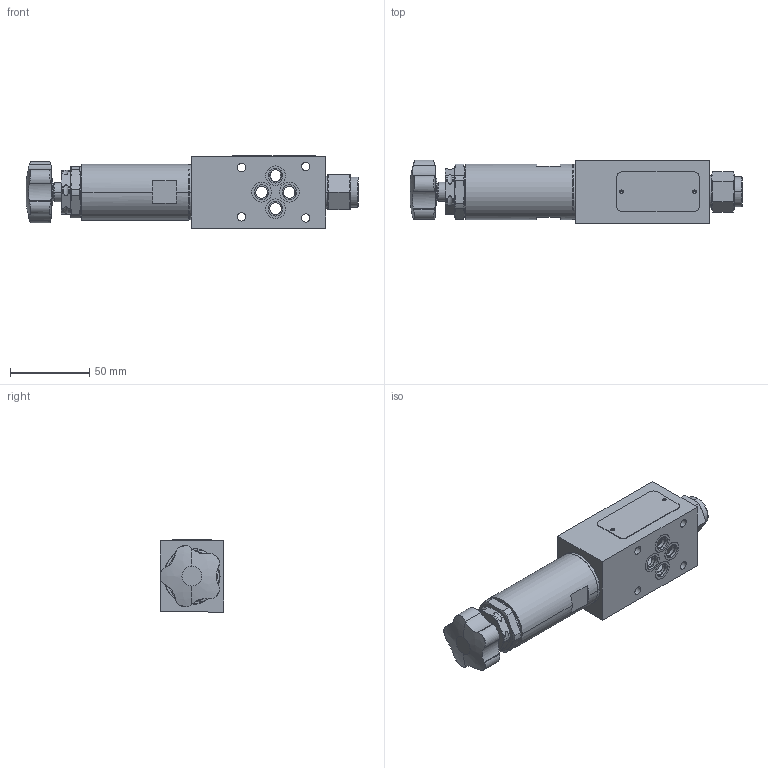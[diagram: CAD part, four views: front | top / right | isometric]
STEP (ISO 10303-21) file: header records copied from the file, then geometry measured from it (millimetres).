
FILE_DESCRIPTION((''),'2;1');
FILE_NAME('VRP2-06-PR_ASM','2022-01-18T',('j.slovenska'),(''),'PRO/ENGINEER BY PARAMETRIC TECHNOLOGY CORPORATION, 2015440','PRO/ENGINEER BY PARAMETRIC TECHNOLOGY CORPORATION, 2015440','');
FILE_SCHEMA(('AUTOMOTIVE_DESIGN { 1 0 10303 214 1 1 1 1 }'));
Length unit declared in the file: millimetre
Products named in the file (33): 27561601_AF0; 517_0120_AF0; 19906100_AF0; 19906200; 19906400; 19906300; 19905900_AF0; KOULE_5_AF0; 19906000; 19905200; 556_3080; DKAR00012_AF0; DKAR00012_AF1; DKAR00012_AF2; DKAR00012_AF3; VSTI_G1_4_ED; DIN988_13_19_0_2; DIN471_12X1; 517_0450_AF0; 123; RD_LABEL_25X52; ORIA00900_AF0; ORAR00123_AF0; ORAR00022_AF0; 014_AF0; ORAR00014_AF0; 30451800; LOBE_KNOBS_WITH_SQUARE_HOLE_VCR; CSN_021702B_4_3; CSN_021131_M4X8; CAP_HANDLE_VPN; ORIA01000_AF0; VRP2-06-PR_ASM
Assembly tree (32 placements, depth 2):
  VRP2-06-PR_ASM
    27561601_AF0
    517_0120_AF0
    19906100_AF0
    19906200
    19906400
    19906300
    19905900_AF0
    KOULE_5_AF0
    19906000
    19905200
    556_3080
    DKAR00012_AF0
    DKAR00012_AF1
    DKAR00012_AF2
    DKAR00012_AF3
    VSTI_G1_4_ED
    DIN988_13_19_0_2
    DIN471_12X1
    517_0450_AF0
    123
    RD_LABEL_25X52
    ORIA00900_AF0
    ORAR00123_AF0
    ORAR00022_AF0
    014_AF0
    ORAR00014_AF0
    30451800
    LOBE_KNOBS_WITH_SQUARE_HOLE_VCR
    CSN_021702B_4_3
    CSN_021131_M4X8
    CAP_HANDLE_VPN
    ORIA01000_AF0
Bounding box: 209.1 x 40.19 x 45.52 mm (x, y, z)
Volume: 179040 mm3; surface area: 100108 mm2
Topology: 30 solids, 46 shells, 931 faces, 2295 edges, 1543 vertices
Faces by surface type: cylinder 364, plane 242, cone 138, torus 124, bspline 43, sphere 20
Entity records: 49807 total; most frequent: CARTESIAN_POINT 18495, DIRECTION 5155, ORIENTED_EDGE 4342, EDGE_CURVE 2202, AXIS2_PLACEMENT_3D 2173, PRESENTATION_STYLE_ASSIGNMENT 1767, STYLED_ITEM 1739, CURVE_STYLE 1411
